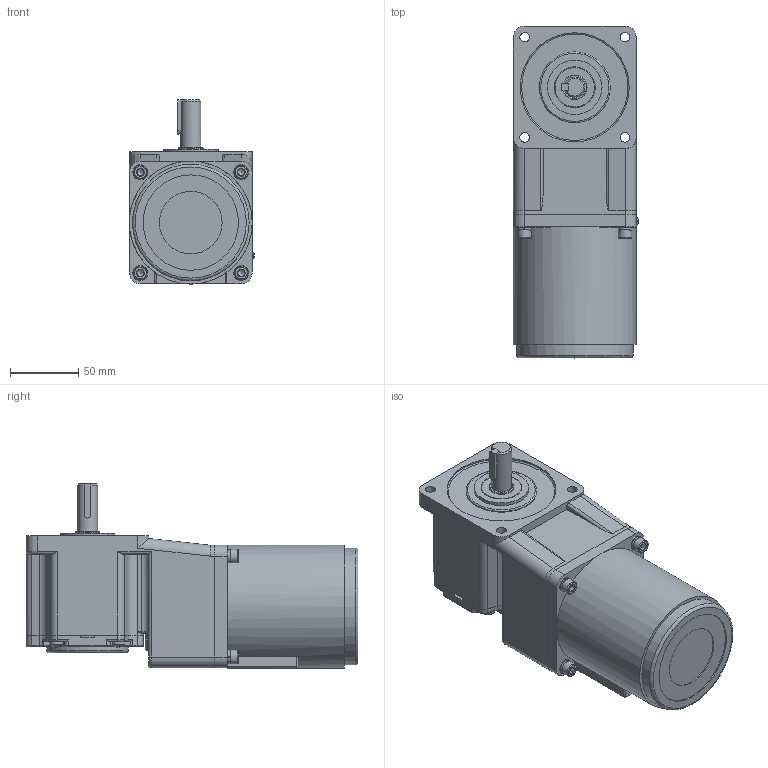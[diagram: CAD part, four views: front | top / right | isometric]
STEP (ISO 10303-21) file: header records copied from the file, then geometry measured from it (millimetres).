
FILE_DESCRIPTION(/* description */ (''),/* implementation_level */ '2;1');
FILE_NAME(/* name */ '90+中实直角-普通-40W.stp',/* time_stamp */ '2022-11-01T13:13:40+08:00',/* author */ (''),/* organization */ (''),/* preprocessor_version */ 'ST-DEVELOPER v16.7',/* originating_system */ 'SIEMENS PLM Software NX 1899',/* authorisation */ '');
FILE_SCHEMA (('AP203_CONFIGURATION_CONTROLLED_3D_DESIGN_OF_MECHANICAL_PARTS_AND_ASSEMBLIES_MIM_LF { 1 0 10303 403 2 1 2}'));
Length unit declared in the file: millimetre
Products named in the file (1): yf1854BC0762njqf
Bounding box: 92 x 243.5 x 135.1 mm (x, y, z)
Volume: 1667959.4 mm3; surface area: 141119.3 mm2
Topology: 15 solids, 15 shells, 582 faces, 1333 edges, 801 vertices
Faces by surface type: plane 284, cylinder 188, torus 55, cone 43, sphere 8, bspline 4
Full cylindrical faces by diameter (mm): 5 x4, 5.5 x4, 5.795 x4, 6.4 x4, 7 x8, 9.5 x4, 10 x4, 11 x4, 15 x1, 18 x1, 30 x1, 40 x1, 46 x1, 52 x1, 60 x1, 67 x1, 70 x1, 76 x1, 80 x1, 85.6 x1, 86 x2, 90.2 x1
Entity records: 17336 total; most frequent: CARTESIAN_POINT 3427, DIRECTION 2722, ORIENTED_EDGE 2396, EDGE_CURVE 1198, AXIS2_PLACEMENT_3D 1074, VERTEX_POINT 768, EDGE_LOOP 720, ADVANCED_FACE 582
